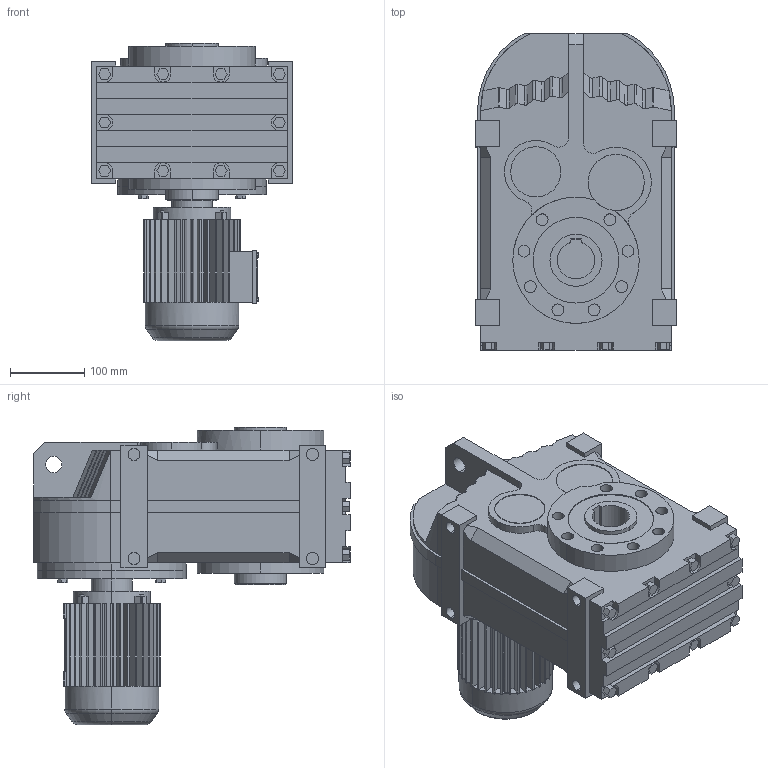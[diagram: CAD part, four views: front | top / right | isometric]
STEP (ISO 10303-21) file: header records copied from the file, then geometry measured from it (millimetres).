
FILE_DESCRIPTION(('Open CASCADE Model'),'2;1');
FILE_NAME('Open CASCADE Shape Model','2021-07-15T14:52:55',('Author'),( 'Open CASCADE'),'Open CASCADE STEP processor 6.3','Open CASCADE 6.3' ,'Unknown');
FILE_SCHEMA(('AUTOMOTIVE_DESIGN_CC2 { 1 2 10303 214 -1 1 5 4 }'));
Length unit declared in the file: millimetre
Products named in the file (4): 1_FA77-Y63S; FA27‵157_77.step; 萇儂_200.step; す瑩諾陑粣F_77.step
Assembly tree (3 placements, depth 2):
  1_FA77-Y63S
    FA27‵157_77.step
    萇儂_200.step
    す瑩諾陑粣F_77.step
Bounding box: 270 x 426 x 400 mm (x, y, z)
Volume: 18473231.7 mm3; surface area: 874632.6 mm2
Topology: 3 solids, 3 shells, 780 faces, 2057 edges, 1338 vertices
Faces by surface type: plane 566, cylinder 192, bspline 16, torus 4, cone 2
Entity records: 52080 total; most frequent: CARTESIAN_POINT 12501, DIRECTION 6947, ORIENTED_EDGE 4114, PCURVE 4114, DEFINITIONAL_REPRESENTATION 4114, LINE 3939, VECTOR 3939, EDGE_CURVE 2057
